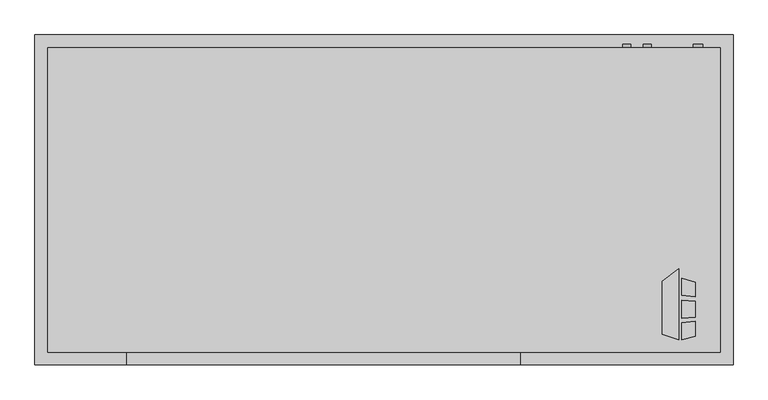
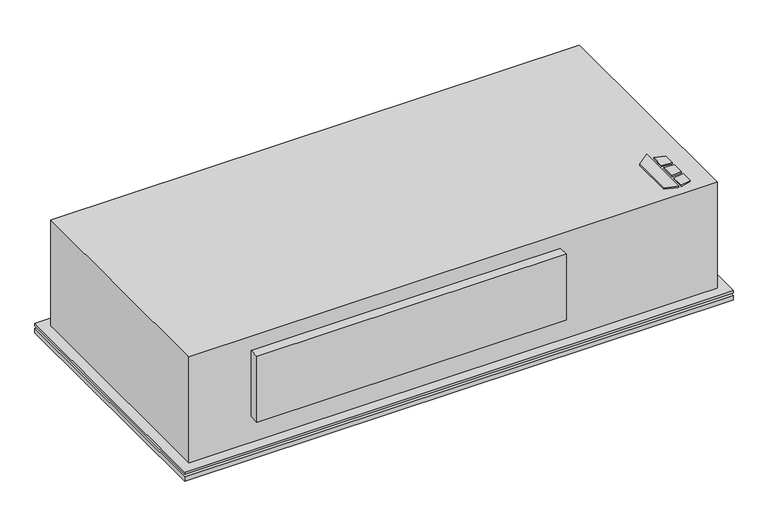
"""IFC4 building model written with IfcOpenShell, lengths in millimetres: proxy geometry, Horizontal_Telescoping_Fan_Coil_Unit_-_CBY_-_IEC_-_2-Pipe_Cool-EHeat_RH_2022 : Size 06 - 277v/60Hz/1Ph - 4 Row 6.0kW."""

from ifc_helpers import new_model, si_unit, point, frame, frame_2d, origin, origin_with_axes, place, context, project, spatial, polyline, circle_curve, trimmed, segment, composite_curve, outline, extrude, source, transform, mapped, element, save


def mechanical_equipment_a4355331(model_context):
    return source(origin(), model_context, "Body", "SweptSolid", [
        extrude(outline(polyline([(709.3019761, -401.0078476), (741.8602728, -375.5705184), (741.8602728, -517.525), (709.3019761, -507.3054201), (709.3019761, -401.0078476)])), origin_with_axes(), (0.0, 0.0, 1.0), 3.175),
        extrude(outline(polyline([(748.6186058, -428.879852), (748.6186058, -394.3999379), (774.7, -402.5865115), (774.7, -432.0822446), (748.6186058, -428.879852)])), origin_with_axes(), (0.0, 0.0, 1.0), 3.175),
        extrude(outline(polyline([(774.7, -510.5365115), (748.6186058, -517.525), (748.6186058, -484.3036996), (774.7, -480.7618564), (774.7, -510.5365115)])), origin_with_axes(), (0.0, 0.0, 1.0), 3.175),
        extrude(outline(polyline([(774.7, -441.1638277), (774.7, -472.413983), (748.6186058, -475.155248), (748.6186058, -439.2975378), (774.7, -441.1638277)])), origin_with_axes(), (0.0, 0.0, 1.0), 3.175),
        extrude(outline(composite_curve([segment(trimmed(circle_curve(frame_2d((-95.25, 679.45)), 7.9375), [point((-95.25, 687.3875))], [point((-95.25, 671.5125))], False, "CARTESIAN"), True, "CONTINUOUS"), segment(trimmed(circle_curve(frame_2d((-95.25, 679.45)), 7.9375), [point((-95.25, 671.5125))], [point((-95.25, 687.3875))], False, "CARTESIAN"), True, "CONTINUOUS")], self_intersect=False)), frame((0.0, 66.675, 0.0), z_axis=(0.0, 1.0, 0.0), x_axis=(0.0, 0.0, 1.0)), (0.0, 0.0, 1.0), 6.35),
        extrude(outline(composite_curve([segment(trimmed(circle_curve(frame_2d((-60.325, 638.175)), 7.9375), [point((-60.325, 646.1125))], [point((-60.325, 630.2375))], False, "CARTESIAN"), True, "CONTINUOUS"), segment(trimmed(circle_curve(frame_2d((-60.325, 638.175)), 7.9375), [point((-60.325, 630.2375))], [point((-60.325, 646.1125))], False, "CARTESIAN"), True, "CONTINUOUS")], self_intersect=False)), frame((0.0, 66.675, 0.0), z_axis=(0.0, 1.0, 0.0), x_axis=(0.0, 0.0, 1.0)), (0.0, 0.0, 1.0), 6.35),
        extrude(outline(composite_curve([segment(trimmed(circle_curve(frame_2d((-260.35, 781.05)), 9.525), [point((-260.35, 790.575))], [point((-260.35, 771.525))], False, "CARTESIAN"), True, "CONTINUOUS"), segment(trimmed(circle_curve(frame_2d((-260.35, 781.05)), 9.525), [point((-260.35, 771.525))], [point((-260.35, 790.575))], False, "CARTESIAN"), True, "CONTINUOUS")], self_intersect=False)), frame((0.0, 66.675, 0.0), z_axis=(0.0, 1.0, 0.0), x_axis=(0.0, 0.0, 1.0)), (0.0, 0.0, 1.0), 6.35),
        extrude(outline(polyline([(850.9, 92.075), (850.9, -568.325), (-546.1, -568.325), (-546.1, 92.075), (850.9, 92.075)])), frame((0.0, 0.0, -311.15), z_axis=(0.0, 0.0, 1.0), x_axis=(1.0, 0.0, 0.0)), (0.0, 0.0, 1.0), 12.7),
        extrude(outline(polyline([(850.9, 92.075), (850.9, -568.325), (-546.1, -568.325), (-546.1, 92.075), (850.9, 92.075)])), frame((0.0, 0.0, -292.1), z_axis=(0.0, 0.0, 1.0), x_axis=(1.0, 0.0, 0.0)), (0.0, 0.0, 1.0), 6.35),
        extrude(outline(polyline([(825.5, 66.675), (825.5, -542.925), (-520.7, -542.925), (-520.7, 66.675), (825.5, 66.675)])), frame((0.0, 0.0, -298.45), z_axis=(0.0, 0.0, 1.0), x_axis=(1.0, 0.0, 0.0)), (0.0, 0.0, 1.0), 6.35),
        extrude(outline(polyline([(425.45, -568.325), (-361.95, -568.325), (-361.95, -542.925), (425.45, -542.925), (425.45, -568.325)])), frame((0.0, 0.0, -215.9), z_axis=(0.0, 0.0, 1.0), x_axis=(1.0, 0.0, 0.0)), (0.0, 0.0, 1.0), 177.8),
        extrude(outline(polyline([(-520.7, 66.675), (825.5, 66.675), (825.5, -542.925), (-520.7, -542.925), (-520.7, 66.675)])), frame((0.0, 0.0, -285.75), z_axis=(0.0, 0.0, 1.0), x_axis=(1.0, 0.0, 0.0)), (0.0, 0.0, 1.0), 285.75),
        extrude(outline(polyline([(723.9, -9.525), (723.9, -263.525), (-419.1, -263.525), (-419.1, -9.525), (723.9, -9.525)])), frame((0.0, 0.0, -317.5), z_axis=(0.0, 0.0, 1.0), x_axis=(1.0, 0.0, 0.0)), (0.0, 0.0, 1.0), 6.35),
    ])


if __name__ == "__main__":
    model = new_model("IFC4")
    model_context = context("Model", 3, world=origin())
    ifc_project = project(units=[si_unit("LENGTHUNIT", "METRE", prefix="MILLI")], contexts=[model_context])
    site = spatial("IfcSite", under=ifc_project)
    building = spatial("IfcBuilding", under=site)
    placement = place(None, origin())
    mechanical_equipment_shape = mechanical_equipment_a4355331(model_context)
    element("IfcBuildingElementProxy", 1, Name="Horizontal_Telescoping_Fan_Coil_Unit_-_CBY_-_IEC_-_2-Pipe_Cool-EHeat_RH_2022 : Size 06 - 277v/60Hz/1Ph - 4 Row 6.0kW", ObjectType="Horizontal_Telescoping_Fan_Coil_Unit_-_CBY_-_IEC_-_2-Pipe_Cool-EHeat_RH_2022 : Size 06 - 277v/60Hz/1Ph - 4 Row 6.0kW", at=placement, inside=building, context=model_context, shape_type="MappedRepresentation", body=[
        mapped(mechanical_equipment_shape, transform((0.0, 0.0, 0.0), x_axis=(1.0, 0.0, 0.0), y_axis=(0.0, 1.0, 0.0), z_axis=(0.0, 0.0, 1.0))),
    ])
    save(model, "model.ifc")
